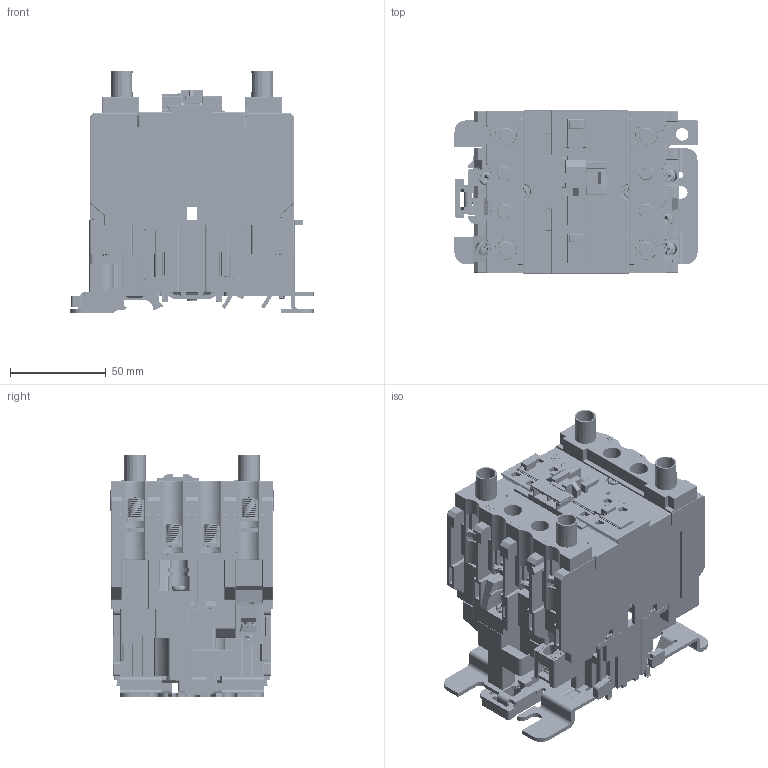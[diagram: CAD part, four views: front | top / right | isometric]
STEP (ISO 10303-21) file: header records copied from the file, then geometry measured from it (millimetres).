
FILE_DESCRIPTION((''),'2;1');
FILE_NAME('CJX2-4000800_ASM','2023-07-28T11:53:14',('Administrator'),(''),'CREO PARAMETRIC BY PTC INC, 2020033','CREO PARAMETRIC BY PTC INC, 2020033','');
FILE_SCHEMA(('CONFIG_CONTROL_DESIGN'));
Products named in the file (41): CJX2-40000; CJX2-40100; CJX2-40200; CJX2-40000_ASM; CJX2-4000; CJX2-400009; CJX2-400010; CJX2-400011; M3_5X9_50002; 7_5X2_600; M3_5X9_50001_ASM; CJX2-400008_ASM; CJX2-400400; CJX2-4004000; CJX2-400800; CJX2-40040006; CJX2-40_A; CJX2-40002; CJX2-40001; CJX2-400014; CJX2-400015; CJX2-40_AF_ASM; CJX2-09000; CJX2-4008000; M3_5X180001; M3_5X480001; CJX2-400016; CJX2-4000800_ASM
Assembly tree (118 placements, depth 4):
  CJX2-4000800_ASM
    CJX2-40000
    CJX2-40000_ASM
      CJX2-40000  x39
      CJX2-40100  x2
      CJX2-40200
    CJX2-40000  x2
    CJX2-4000
    CJX2-400008_ASM
      CJX2-400009
      CJX2-400010
      CJX2-400011
      M3_5X9_50001_ASM  x3
        M3_5X9_50002
        7_5X2_600
    CJX2-400400
    CJX2-4004000  x2
    CJX2-400400
    CJX2-400800
    CJX2-40040006
    CJX2-4000
    CJX2-40_A
    CJX2-40002  x8
    CJX2-40_AF_ASM
      CJX2-40001
      CJX2-400014
      CJX2-400015
    CJX2-40_AF_ASM
      CJX2-40001
      CJX2-400014
      CJX2-400015
    CJX2-400800  x4
    CJX2-40_AF_ASM
      CJX2-40001
      CJX2-400014
      CJX2-400015
    CJX2-40_AF_ASM
      CJX2-40001
      CJX2-400014
      CJX2-400015
    CJX2-40_AF_ASM
      CJX2-40001
      CJX2-400014
      CJX2-400015
    CJX2-40_AF_ASM
      CJX2-40001
      CJX2-400014
      CJX2-400015
    CJX2-40_AF_ASM
      CJX2-40001
      CJX2-400014
      CJX2-400015
    CJX2-40_AF_ASM
      CJX2-40001
      CJX2-400014
      CJX2-400015
    CJX2-09000
    CJX2-4008000
    CJX2-4008000
    M3_5X180001  x2
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Bounding box: 126.7 x 85 x 126.3 mm (x, y, z)
Volume: 468112.9 mm3; surface area: 382579 mm2
Topology: 115 solids, 115 shells, 9267 faces, 25361 edges, 16477 vertices
Faces by surface type: plane 5574, cylinder 2788, bspline 449, sphere 235, torus 170, cone 51
Entity records: 196295 total; most frequent: CARTESIAN_POINT 51546, ORIENTED_EDGE 30692, DIRECTION 28920, EDGE_CURVE 15346, VECTOR 11758, LINE 11758, VERTEX_POINT 9923, AXIS2_PLACEMENT_3D 8581
